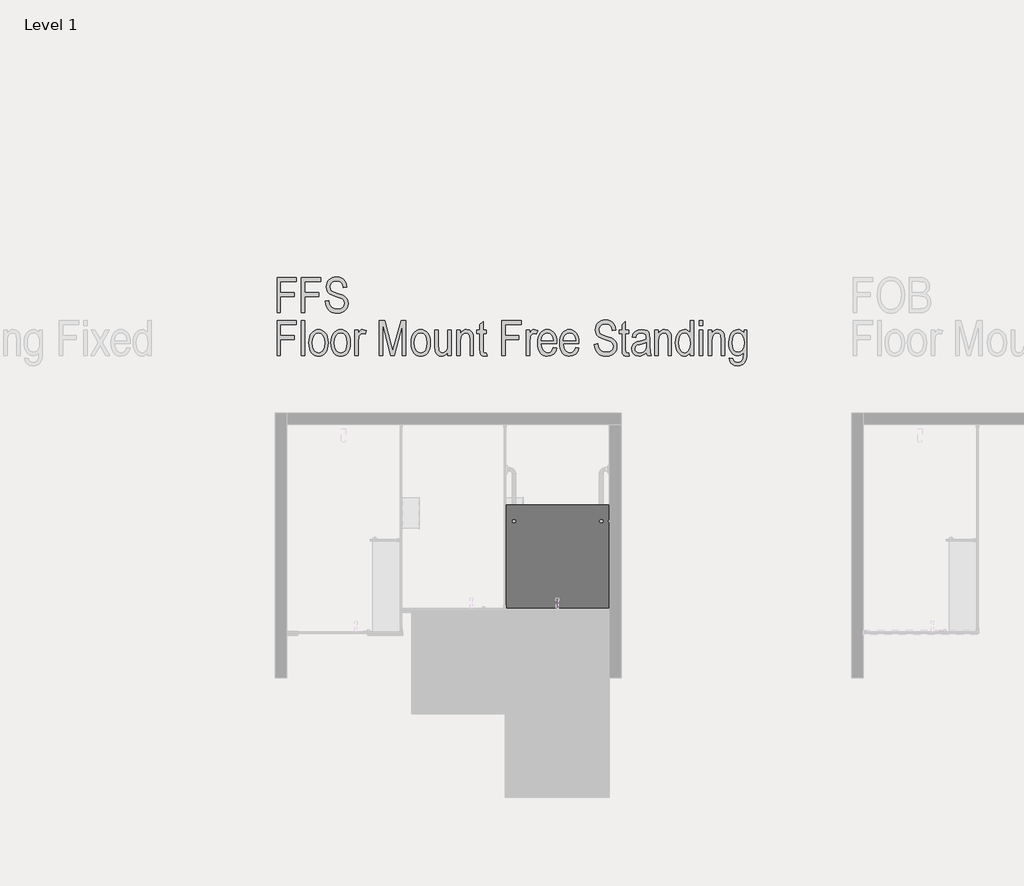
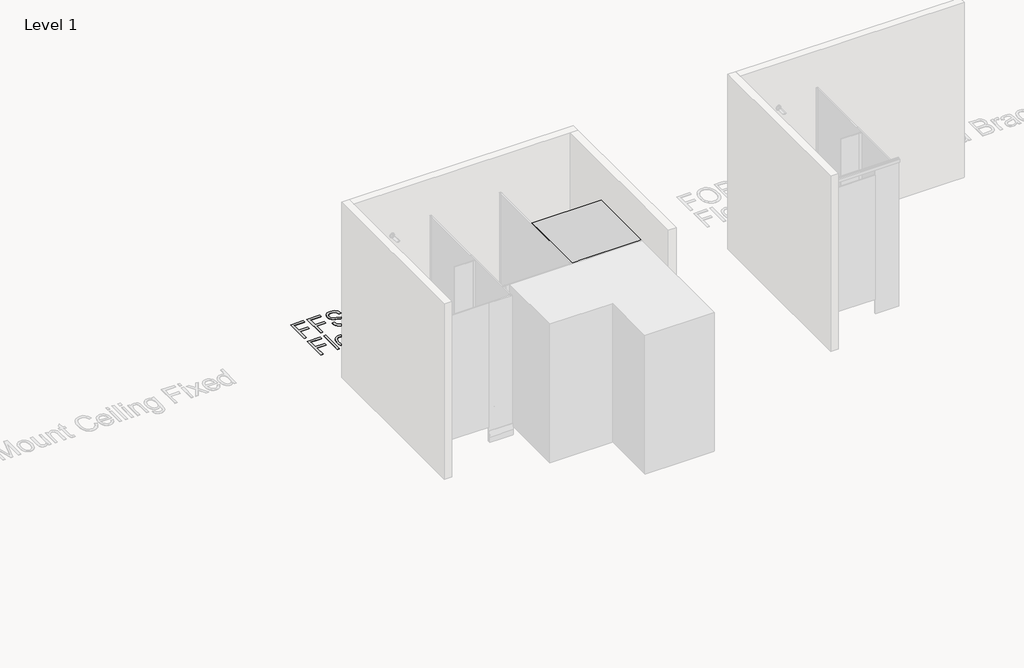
# One storey, part 11 of 21: 2 proxies.
"""IFC4 building model written with IfcOpenShell, lengths in millimetres."""

from ifc_helpers import new_model, si_unit, origin, origin_with_axes, place, context, project, spatial, polyline, outline, extrude, transform, mapped, element, save
from components import standard_ef1a4fdd

model = new_model("IFC4")

# Units and contexts
model_context = context("Model", 3, world=origin())
ifc_project = project(units=[si_unit("LENGTHUNIT", "METRE", prefix="MILLI")], contexts=[model_context])

# Site, building, storey
site = spatial("IfcSite", under=ifc_project)
building = spatial("IfcBuilding", under=site)
storey = spatial("IfcBuildingStorey", under=building, Name="Level 1", Elevation=0.0)

# Proxies
placement = place(None, origin())
element("IfcBuildingElementProxy", 1, Name="Arial Narrow-300mm", ObjectType="Arial Narrow-300mm", at=placement, inside=storey, context=model_context, shape_type="SweptSolid", body=[
    extrude(outline(polyline([(-6218.8829157, 11023.6753804), (-6218.8829157, 11328.8527498), (-6051.5275841, 11328.8527498), (-6051.5275841, 11294.3972403), (-6189.3496219, 11294.3972403), (-6189.3496219, 11195.9529276), (-6071.2164466, 11195.9529276), (-6071.2164466, 11161.4974182), (-6189.3496219, 11161.4974182), (-6189.3496219, 11023.6753804), (-6218.8829157, 11023.6753804)])), origin_with_axes(), (0.0, 0.0, 1.0), 5.0),
    extrude(outline(polyline([(-6007.2276434, 11023.6753804), (-6007.2276434, 11328.8527498), (-5839.8723118, 11328.8527498), (-5839.8723118, 11294.3972403), (-5977.6943496, 11294.3972403), (-5977.6943496, 11195.9529276), (-5859.5611743, 11195.9529276), (-5859.5611743, 11161.4974182), (-5977.6943496, 11161.4974182), (-5977.6943496, 11023.6753804), (-6007.2276434, 11023.6753804)])), origin_with_axes(), (0.0, 0.0, 1.0), 5.0),
    extrude(outline(polyline([(-5800.4945867, 11122.1196931), (-5770.9612929, 11127.0419087), (-5766.8177872, 11103.5171789), (-5759.4633048, 11085.8568076), (-5748.57098, 11072.5706709), (-5733.8139468, 11062.1686449), (-5716.0862795, 11055.4486669), (-5696.2820526, 11053.2086742), (-5669.6424832, 11056.8138126), (-5649.7132781, 11067.6292278), (-5637.2827609, 11084.2128645), (-5633.1392551, 11105.1226672), (-5634.6486064, 11117.793527), (-5639.1766602, 11128.7339204), (-5646.7522577, 11137.8957788), (-5657.40424, 11145.2310337), (-5710.0488744, 11164.0354356), (-5740.6300618, 11174.9950564), (-5760.3862202, 11185.7239483), (-5773.1339896, 11197.7699174), (-5782.6900098, 11212.6807698), (-5788.660119, 11230.0911849), (-5790.6501554, 11249.6358419), (-5784.8242518, 11283.3222552), (-5777.5418722, 11297.6274443), (-5767.3465408, 11310.2406219), (-5754.6852947, 11320.5368972), (-5740.0051711, 11327.8913795), (-5723.30617, 11332.3040689), (-5704.5882914, 11333.7749654), (-5679.1408212, 11331.0927424), (-5657.0966015, 11323.0460735), (-5639.0324547, 11309.9906656), (-5625.5252028, 11292.2822258), (-5616.892098, 11270.4879624), (-5613.4503926, 11245.175084), (-5642.9836864, 11240.2528683), (-5648.6461571, 11266.43098), (-5660.7113536, 11284.8219927), (-5679.0639115, 11295.6950902), (-5703.5884664, 11299.319456), (-5728.3245227, 11295.7719998), (-5746.3886695, 11285.1296312), (-5757.4348136, 11268.853633), (-5761.1168616, 11248.405288), (-5758.7326634, 11229.8508423), (-5751.5800688, 11216.0263383), (-5734.8522266, 11204.7398516), (-5703.5884664, 11193.9532775), (-5650.5977387, 11175.9564266), (-5630.1590074, 11162.6414488), (-5615.4500427, 11146.384678), (-5606.5669817, 11126.9553854), (-5603.6059613, 11104.1228422), (-5606.6438913, 11080.8288412), (-5615.7576812, 11059.707537), (-5630.0917115, 11042.0663931), (-5648.7903626, 11029.212873), (-5671.7959525, 11021.3680918), (-5699.0507989, 11018.7531648), (-5720.8426588, 11020.4956483), (-5740.3031959, 11025.723099), (-5757.4324102, 11034.4355168), (-5772.2303016, 11046.6329018), (-5784.220992, 11061.8057276), (-5792.9286029, 11079.4444681), (-5798.3531345, 11099.5491233), (-5800.4945867, 11122.1196931)])), origin_with_axes(), (0.0, 0.0, 1.0), 5.0),
    extrude(outline(polyline([(-6218.8829157, 10650.573168), (-6218.8829157, 10955.7505374), (-6051.5275841, 10955.7505374), (-6051.5275841, 10921.2950279), (-6189.3496219, 10921.2950279), (-6189.3496219, 10822.8507152), (-6071.2164466, 10822.8507152), (-6071.2164466, 10788.3952058), (-6189.3496219, 10788.3952058), (-6189.3496219, 10650.573168), (-6218.8829157, 10650.573168)])), origin_with_axes(), (0.0, 0.0, 1.0), 5.0),
    extrude(outline(polyline([(-6007.2276434, 10650.573168), (-6007.2276434, 10955.7505374), (-5977.6943496, 10955.7505374), (-5977.6943496, 10650.573168), (-6007.2276434, 10650.573168)])), origin_with_axes(), (0.0, 0.0, 1.0), 5.0),
    extrude(outline(polyline([(-5943.2388401, 10761.3230198), (-5941.75833, 10788.2149489), (-5937.3167994, 10811.5930697), (-5929.9142486, 10831.4573823), (-5919.5506774, 10847.8078867), (-5906.9182724, 10860.5772869), (-5892.7092203, 10869.6982871), (-5876.9235209, 10875.1708872), (-5859.5611743, 10876.9950872), (-5842.448784, 10875.1708872), (-5826.7976765, 10869.6982871), (-5812.6078518, 10860.5772869), (-5799.8793098, 10847.8078867), (-5789.3811467, 10831.6015879), (-5781.8824588, 10812.1698919), (-5777.3832461, 10789.5127987), (-5775.8835085, 10763.6303084), (-5777.3568084, 10735.7289405), (-5781.7767081, 10711.629792), (-5789.1432076, 10691.3328628), (-5799.4563069, 10674.8381529), (-5812.0526604, 10662.0687527), (-5826.2689229, 10652.9477525), (-5842.1050942, 10647.4751524), (-5859.5611743, 10645.6509524), (-5876.7672982, 10647.4799593), (-5892.4688777, 10652.9669799), (-5906.6659127, 10662.1120143), (-5919.3584033, 10674.9150625), (-5929.8060944, 10691.2896011), (-5937.2687309, 10711.1491069), (-5941.7463128, 10734.4935798), (-5943.2388401, 10761.3230198)]), holes=[polyline([(-5913.7055463, 10761.3999294), (-5909.7543146, 10723.3681227), (-5897.9006196, 10696.4882107), (-5880.2017934, 10680.5102373), (-5858.7151685, 10675.1842462), (-5838.3533468, 10680.5583058), (-5821.1063647, 10696.6804848), (-5809.3391929, 10723.6084652), (-5805.4168023, 10761.3999294), (-5809.368034, 10799.3163717), (-5821.2217291, 10826.1578289), (-5838.9205553, 10842.1358023), (-5860.4071801, 10847.4617934), (-5880.9132074, 10842.1069612), (-5898.1313484, 10826.0424644), (-5909.8119968, 10799.1721662), (-5913.7055463, 10761.3999294)])]), origin_with_axes(), (0.0, 0.0, 1.0), 5.0),
    extrude(outline(polyline([(-5751.2724304, 10761.3230198), (-5749.7919202, 10788.2149489), (-5745.3503897, 10811.5930697), (-5737.9478388, 10831.4573823), (-5727.5842676, 10847.8078867), (-5714.9518627, 10860.5772869), (-5700.7428105, 10869.6982871), (-5684.9571111, 10875.1708872), (-5667.5947646, 10876.9950872), (-5650.4823743, 10875.1708872), (-5634.8312667, 10869.6982871), (-5620.641442, 10860.5772869), (-5607.9129, 10847.8078867), (-5597.414737, 10831.6015879), (-5589.9160491, 10812.1698919), (-5585.4168363, 10789.5127987), (-5583.9170988, 10763.6303084), (-5585.3903987, 10735.7289405), (-5589.8102984, 10711.629792), (-5597.1767978, 10691.3328628), (-5607.4898971, 10674.8381529), (-5620.0862507, 10662.0687527), (-5634.3025131, 10652.9477525), (-5650.1386844, 10647.4751524), (-5667.5947646, 10645.6509524), (-5684.8008885, 10647.4799593), (-5700.5024679, 10652.9669799), (-5714.699503, 10662.1120143), (-5727.3919936, 10674.9150625), (-5737.8396847, 10691.2896011), (-5745.3023212, 10711.1491069), (-5749.7799031, 10734.4935798), (-5751.2724304, 10761.3230198)]), holes=[polyline([(-5721.7391366, 10761.3999294), (-5717.7879049, 10723.3681227), (-5705.9342098, 10696.4882107), (-5688.2353836, 10680.5102373), (-5666.7487588, 10675.1842462), (-5646.386937, 10680.5583058), (-5629.1399549, 10696.6804848), (-5617.3727832, 10723.6084652), (-5613.4503926, 10761.3999294), (-5617.4016243, 10799.3163717), (-5629.2553193, 10826.1578289), (-5646.9541455, 10842.1358023), (-5668.4407704, 10847.4617934), (-5688.9467976, 10842.1069612), (-5706.1649386, 10826.0424644), (-5717.8455871, 10799.1721662), (-5721.7391366, 10761.3999294)])]), origin_with_axes(), (0.0, 0.0, 1.0), 5.0),
    extrude(outline(polyline([(-5544.5393737, 10650.573168), (-5544.5393737, 10872.0728716), (-5515.0060799, 10872.0728716), (-5515.0060799, 10842.693397), (-5505.1231938, 10859.9596065), (-5496.0863135, 10870.2270407), (-5486.9340688, 10875.3030756), (-5476.7050895, 10876.9950872), (-5461.5538945, 10874.5339794), (-5446.095061, 10867.1506559), (-5455.9394923, 10837.6173621), (-5478.8585588, 10842.5395778), (-5488.5011023, 10840.7802702), (-5497.2784126, 10835.5023476), (-5504.3829387, 10827.0711306), (-5509.0071296, 10815.8519399), (-5515.0060799, 10769.167801), (-5515.0060799, 10650.573168), (-5544.5393737, 10650.573168)])), origin_with_axes(), (0.0, 0.0, 1.0), 5.0),
    extrude(outline(polyline([(-5332.8841014, 10650.573168), (-5332.8841014, 10955.7505374), (-5286.0461432, 10955.7505374), (-5228.6715672, 10739.6345072), (-5217.212034, 10694.4885606), (-5203.8297602, 10743.4030785), (-5143.7633475, 10955.7505374), (-5101.5399665, 10955.7505374), (-5101.5399665, 10650.573168), (-5131.0732604, 10650.573168), (-5131.0732604, 10910.8353197), (-5204.2912179, 10650.573168), (-5230.9019462, 10650.573168), (-5303.3508076, 10925.4481474), (-5303.3508076, 10650.573168), (-5332.8841014, 10650.573168)])), origin_with_axes(), (0.0, 0.0, 1.0), 5.0),
    extrude(outline(polyline([(-5057.2400258, 10761.3230198), (-5055.7595157, 10788.2149489), (-5051.3179851, 10811.5930697), (-5043.9154343, 10831.4573823), (-5033.5518631, 10847.8078867), (-5020.9194581, 10860.5772869), (-5006.7104059, 10869.6982871), (-4990.9247066, 10875.1708872), (-4973.56236, 10876.9950872), (-4956.4499697, 10875.1708872), (-4940.7988622, 10869.6982871), (-4926.6090374, 10860.5772869), (-4913.8804955, 10847.8078867), (-4903.3823324, 10831.6015879), (-4895.8836445, 10812.1698919), (-4891.3844318, 10789.5127987), (-4889.8846942, 10763.6303084), (-4891.3579941, 10735.7289405), (-4895.7778938, 10711.629792), (-4903.1443933, 10691.3328628), (-4913.4574925, 10674.8381529), (-4926.0538461, 10662.0687527), (-4940.2701086, 10652.9477525), (-4956.1062799, 10647.4751524), (-4973.56236, 10645.6509524), (-4990.7684839, 10647.4799593), (-5006.4700634, 10652.9669799), (-5020.6670984, 10662.1120143), (-5033.359589, 10674.9150625), (-5043.8072801, 10691.2896011), (-5051.2699166, 10711.1491069), (-5055.7474985, 10734.4935798), (-5057.2400258, 10761.3230198)]), holes=[polyline([(-5027.706732, 10761.3999294), (-5023.7555003, 10723.3681227), (-5011.9018052, 10696.4882107), (-4994.2029791, 10680.5102373), (-4972.7163542, 10675.1842462), (-4952.3545325, 10680.5583058), (-4935.1075504, 10696.6804848), (-4923.3403786, 10723.6084652), (-4919.417988, 10761.3999294), (-4923.3692197, 10799.3163717), (-4935.2229148, 10826.1578289), (-4952.921741, 10842.1358023), (-4974.4083658, 10847.4617934), (-4994.9143931, 10842.1069612), (-5012.1325341, 10826.0424644), (-5023.8131825, 10799.1721662), (-5027.706732, 10761.3999294)])]), origin_with_axes(), (0.0, 0.0, 1.0), 5.0),
    extrude(outline(polyline([(-4737.2960095, 10650.573168), (-4737.2960095, 10680.4910099), (-4748.2556303, 10665.272519), (-4760.9841723, 10654.3801942), (-4775.4816355, 10647.8332628), (-4791.74802, 10645.6509524), (-4810.5716493, 10648.5446768), (-4826.4342583, 10657.2258501), (-4838.4321589, 10670.3389402), (-4845.6616631, 10686.528415), (-4850.5069692, 10734.8661108), (-4850.5069692, 10872.0728716), (-4820.9736753, 10872.0728716), (-4820.9736753, 10747.4792883), (-4817.6281069, 10701.0643331), (-4812.8500968, 10690.4988741), (-4805.2072034, 10682.2599312), (-4795.497364, 10676.9531674), (-4784.5185158, 10675.1842462), (-4764.9065629, 10679.7795959), (-4749.1400909, 10693.5656452), (-4740.2570299, 10716.023254), (-4737.2960095, 10751.7093174), (-4737.2960095, 10872.0728716), (-4707.7627157, 10872.0728716), (-4707.7627157, 10650.573168), (-4737.2960095, 10650.573168)])), origin_with_axes(), (0.0, 0.0, 1.0), 5.0),
    extrude(outline(polyline([(-4658.5405594, 10650.573168), (-4658.5405594, 10872.0728716), (-4629.0072656, 10872.0728716), (-4629.0072656, 10843.4624932), (-4618.4898751, 10858.1810716), (-4605.8574702, 10868.6503935), (-4591.1677329, 10874.9089138), (-4574.4783455, 10876.9950872), (-4548.9828067, 10871.2653206), (-4530.0630404, 10856.2679448), (-4519.3341485, 10832.195234), (-4515.796306, 10786.7031942), (-4515.796306, 10650.573168), (-4545.3295998, 10650.573168), (-4545.3295998, 10787.3184711), (-4549.3673548, 10823.5429018), (-4554.5491404, 10833.6949716), (-4562.0189872, 10841.2321142), (-4571.3250511, 10845.9043736), (-4582.0154882, 10847.4617934), (-4601.3005752, 10843.2798329), (-4616.2402688, 10830.7339512), (-4625.8155164, 10808.0359998), (-4629.0072656, 10773.39783), (-4629.0072656, 10650.573168), (-4658.5405594, 10650.573168)])), origin_with_axes(), (0.0, 0.0, 1.0), 5.0),
    extrude(outline(polyline([(-4402.5853464, 10675.1842462), (-4397.6631307, 10645.6509524), (-4419.9669203, 10645.6509524), (-4434.0029259, 10647.2564407), (-4445.0394562, 10652.0729056), (-4453.0765114, 10659.6773442), (-4458.1140915, 10669.6467536), (-4461.651934, 10714.0236039), (-4461.651934, 10842.5395778), (-4486.2630122, 10842.5395778), (-4486.2630122, 10872.0728716), (-4461.651934, 10872.0728716), (-4461.651934, 10921.2950279), (-4432.1186402, 10945.9061061), (-4432.1186402, 10872.0728716), (-4402.5853464, 10872.0728716), (-4402.5853464, 10842.5395778), (-4432.1186402, 10842.5395778), (-4432.1186402, 10707.2555574), (-4429.5037131, 10683.0290273), (-4424.1584946, 10677.1454415), (-4415.5061624, 10675.1842462), (-4402.5853464, 10675.1842462)])), origin_with_axes(), (0.0, 0.0, 1.0), 5.0),
    extrude(outline(polyline([(-4269.6855242, 10650.573168), (-4269.6855242, 10955.7505374), (-4102.3301926, 10955.7505374), (-4102.3301926, 10921.2950279), (-4240.1522304, 10921.2950279), (-4240.1522304, 10822.8507152), (-4122.0190552, 10822.8507152), (-4122.0190552, 10788.3952058), (-4240.1522304, 10788.3952058), (-4240.1522304, 10650.573168), (-4269.6855242, 10650.573168)])), origin_with_axes(), (0.0, 0.0, 1.0), 5.0),
    extrude(outline(polyline([(-4058.0302519, 10650.573168), (-4058.0302519, 10872.0728716), (-4028.4969581, 10872.0728716), (-4028.4969581, 10842.693397), (-4018.614072, 10859.9596065), (-4009.5771918, 10870.2270407), (-4000.4249471, 10875.3030756), (-3990.1959677, 10876.9950872), (-3975.0447727, 10874.5339794), (-3959.5859392, 10867.1506559), (-3969.4303705, 10837.6173621), (-3992.349437, 10842.5395778), (-4001.9919806, 10840.7802702), (-4010.7692909, 10835.5023476), (-4017.8738169, 10827.0711306), (-4022.4980078, 10815.8519399), (-4028.4969581, 10769.167801), (-4028.4969581, 10650.573168), (-4058.0302519, 10650.573168)])), origin_with_axes(), (0.0, 0.0, 1.0), 5.0),
    extrude(outline(polyline([(-3821.7639014, 10719.4841869), (-3792.2306076, 10714.5619713), (-3803.4401846, 10684.6056745), (-3821.0717149, 10663.0325263), (-3844.4137843, 10649.9963459), (-3872.754979, 10645.6509524), (-3891.2469356, 10647.4799593), (-3907.8834476, 10652.9669799), (-3922.6645151, 10662.1120143), (-3935.590138, 10674.9150625), (-3946.088301, 10691.1742367), (-3953.5869889, 10710.6876492), (-3958.0862016, 10733.4552999), (-3959.5859392, 10759.4771889), (-3958.0789914, 10786.4268002), (-3953.5581478, 10809.9779677), (-3946.0234085, 10830.1306914), (-3935.4747736, 10846.8849713), (-3922.61885, 10860.058147), (-3908.162245, 10869.4675582), (-3892.1049586, 10875.113205), (-3874.4469907, 10876.9950872), (-3857.5292778, 10875.1780975), (-3842.0776546, 10869.7271282), (-3828.092121, 10860.6421794), (-3815.5726771, 10847.9232511), (-3805.2595778, 10831.7626174), (-3797.8930783, 10812.3525522), (-3793.4731787, 10789.6930556), (-3791.9998788, 10763.7841276), (-3792.2306076, 10753.9396963), (-3930.0526454, 10753.9396963), (-3924.5055391, 10719.6764609), (-3911.8635204, 10695.026928), (-3893.8955106, 10680.1449166), (-3872.3704309, 10675.1842462), (-3855.5656791, 10677.9529925), (-3841.5296736, 10686.2592314), (-3830.2624144, 10700.1029628), (-3821.7639014, 10719.4841869)]), holes=[polyline([(-3928.0529953, 10783.4729902), (-3821.7639014, 10783.4729902), (-3826.0708401, 10808.7378001), (-3834.6847175, 10826.6961962), (-3852.3354751, 10842.2703941), (-3874.2162618, 10847.4617934), (-3894.3088998, 10843.1356273), (-3911.2097887, 10830.1571291), (-3923.0730975, 10809.8337622), (-3928.0529953, 10783.4729902)])]), origin_with_axes(), (0.0, 0.0, 1.0), 5.0),
    extrude(outline(polyline([(-3629.7974917, 10719.4841869), (-3600.2641979, 10714.5619713), (-3611.4737749, 10684.6056745), (-3629.1053051, 10663.0325263), (-3652.4473746, 10649.9963459), (-3680.7885693, 10645.6509524), (-3699.2805259, 10647.4799593), (-3715.9170379, 10652.9669799), (-3730.6981053, 10662.1120143), (-3743.6237282, 10674.9150625), (-3754.1218913, 10691.1742367), (-3761.6205791, 10710.6876492), (-3766.1197919, 10733.4552999), (-3767.6195294, 10759.4771889), (-3766.1125816, 10786.4268002), (-3761.591738, 10809.9779677), (-3754.0569988, 10830.1306914), (-3743.5083638, 10846.8849713), (-3730.6524402, 10860.058147), (-3716.1958352, 10869.4675582), (-3700.1385488, 10875.113205), (-3682.4805809, 10876.9950872), (-3665.5628681, 10875.1780975), (-3650.1112449, 10869.7271282), (-3636.1257113, 10860.6421794), (-3623.6062673, 10847.9232511), (-3613.2931681, 10831.7626174), (-3605.9266686, 10812.3525522), (-3601.5067689, 10789.6930556), (-3600.033469, 10763.7841276), (-3600.2641979, 10753.9396963), (-3738.0862356, 10753.9396963), (-3732.5391293, 10719.6764609), (-3719.8971107, 10695.026928), (-3701.9291009, 10680.1449166), (-3680.4040212, 10675.1842462), (-3663.5992694, 10677.9529925), (-3649.5632638, 10686.2592314), (-3638.2960046, 10700.1029628), (-3629.7974917, 10719.4841869)]), holes=[polyline([(-3736.0865855, 10783.4729902), (-3629.7974917, 10783.4729902), (-3634.1044303, 10808.7378001), (-3642.7183077, 10826.6961962), (-3660.3690653, 10842.2703941), (-3682.249852, 10847.4617934), (-3702.3424901, 10843.1356273), (-3719.2433789, 10830.1571291), (-3731.1066877, 10809.8337622), (-3736.0865855, 10783.4729902)])]), origin_with_axes(), (0.0, 0.0, 1.0), 5.0),
    extrude(outline(polyline([(-3467.3643757, 10749.0174807), (-3437.8310819, 10753.9396963), (-3433.6875762, 10730.4149665), (-3426.3330938, 10712.7545952), (-3415.440769, 10699.4684585), (-3400.6837358, 10689.0664325), (-3382.9560685, 10682.3464545), (-3363.1518416, 10680.1064618), (-3336.5122722, 10683.7116002), (-3316.5830671, 10694.5270154), (-3304.1525499, 10711.1106521), (-3300.0090441, 10732.0204548), (-3301.5183954, 10744.6913146), (-3306.0464492, 10755.631708), (-3313.6220467, 10764.7935664), (-3324.274029, 10772.1288213), (-3376.9186634, 10790.9332232), (-3407.4998508, 10801.892844), (-3427.2560092, 10812.6217359), (-3440.0037786, 10824.667705), (-3449.5597988, 10839.5785574), (-3455.529908, 10856.9889725), (-3457.5199444, 10876.5336295), (-3451.6940408, 10910.2200428), (-3444.4116612, 10924.5252319), (-3434.2163298, 10937.1384095), (-3421.5550837, 10947.4346848), (-3406.8749601, 10954.7891671), (-3390.175959, 10959.2018565), (-3371.4580804, 10960.672753), (-3346.0106102, 10957.99053), (-3323.9663905, 10949.9438611), (-3305.9022437, 10936.8884532), (-3292.3949918, 10919.1800134), (-3283.761887, 10897.38575), (-3280.3201816, 10872.0728716), (-3309.8534754, 10867.1506559), (-3315.5159461, 10893.3287676), (-3327.5811426, 10911.7197803), (-3345.9337005, 10922.5928778), (-3370.4582554, 10926.2172436), (-3395.1943117, 10922.6697874), (-3413.2584585, 10912.0274188), (-3424.3046026, 10895.7514206), (-3427.9866506, 10875.3030756), (-3425.6024524, 10856.7486299), (-3418.4498578, 10842.9241259), (-3401.7220156, 10831.6376392), (-3370.4582554, 10820.8510651), (-3317.4675277, 10802.8542142), (-3297.0287964, 10789.5392364), (-3282.3198317, 10773.2824656), (-3273.4367707, 10753.853173), (-3270.4757503, 10731.0206298), (-3273.5136803, 10707.7266288), (-3282.6274702, 10686.6053246), (-3296.9615005, 10668.9641807), (-3315.6601516, 10656.1106606), (-3338.6657415, 10648.2658794), (-3365.9205879, 10645.6509524), (-3387.7124478, 10647.3934359), (-3407.1729849, 10652.6208866), (-3424.3021992, 10661.3333044), (-3439.1000906, 10673.5306894), (-3451.090781, 10688.7035152), (-3459.7983919, 10706.3422557), (-3465.2229235, 10726.4469109), (-3467.3643757, 10749.0174807)])), origin_with_axes(), (0.0, 0.0, 1.0), 5.0),
    extrude(outline(polyline([(-3167.109222, 10675.1842462), (-3162.1870063, 10645.6509524), (-3184.4907959, 10645.6509524), (-3198.5268015, 10647.2564407), (-3209.5633318, 10652.0729056), (-3217.600387, 10659.6773442), (-3222.6379671, 10669.6467536), (-3226.1758096, 10714.0236039), (-3226.1758096, 10842.5395778), (-3250.7868878, 10842.5395778), (-3250.7868878, 10872.0728716), (-3226.1758096, 10872.0728716), (-3226.1758096, 10921.2950279), (-3196.6425158, 10945.9061061), (-3196.6425158, 10872.0728716), (-3167.109222, 10872.0728716), (-3167.109222, 10842.5395778), (-3196.6425158, 10842.5395778), (-3196.6425158, 10707.2555574), (-3194.0275887, 10683.0290273), (-3188.6823702, 10677.1454415), (-3180.030038, 10675.1842462), (-3167.109222, 10675.1842462)])), origin_with_axes(), (0.0, 0.0, 1.0), 5.0),
    extrude(outline(polyline([(-3014.5205373, 10678.1068117), (-3030.1428037, 10663.9554418), (-3046.3995745, 10653.803372), (-3063.2908496, 10647.6890573), (-3080.8166291, 10645.6509524), (-3106.1198939, 10649.9386636), (-3125.7318468, 10662.8017975), (-3138.3065696, 10682.9136629), (-3142.4981438, 10708.9475691), (-3140.48888, 10727.0790118), (-3134.4610886, 10743.0185304), (-3124.9531369, 10756.2373712), (-3112.5033923, 10766.2067806), (-3094.9872265, 10773.4651259), (-3070.2800113, 10778.5507745), (-3037.3434668, 10785.3572758), (-3014.5205373, 10793.3174214), (-3014.5205373, 10802.7773046), (-3016.6163244, 10821.889345), (-3022.9036858, 10834.3102485), (-3037.8241519, 10844.1739072), (-3059.0512069, 10847.4617934), (-3078.2786117, 10845.3948474), (-3091.9685239, 10839.1940093), (-3101.4476345, 10827.282632), (-3108.0426344, 10808.0840683), (-3137.5759282, 10813.006284), (-3127.7891791, 10841.9146871), (-3111.349748, 10861.7285278), (-3087.3347194, 10873.1784474), (-3054.8211778, 10876.9950872), (-3029.229502, 10874.3128642), (-3009.8290505, 10866.2661953), (-2996.5333001, 10854.258681), (-2989.2557274, 10839.6939219), (-2984.9872435, 10793.394331), (-2984.9872435, 10743.3261689), (-2982.9875934, 10677.1454415), (-2975.1428122, 10650.573168), (-3004.676106, 10650.573168), (-3010.9057852, 10663.2248004), (-3014.5205373, 10678.1068117)]), holes=[polyline([(-3014.5205373, 10763.7841276), (-3036.6128254, 10755.7470724), (-3067.3574457, 10749.0174807), (-3095.8524597, 10741.288064), (-3108.4656373, 10728.9825249), (-3112.96485, 10710.6395807), (-3110.3883777, 10696.1132763), (-3102.658961, 10684.8364034), (-3090.3726493, 10677.5972855), (-3074.1254922, 10675.1842462), (-3057.6091515, 10677.3665566), (-3042.669458, 10683.913488), (-3030.3062367, 10694.1040125), (-3021.5193126, 10707.2171026), (-3016.2702311, 10725.1274302), (-3014.5205373, 10749.7096673), (-3014.5205373, 10763.7841276)])]), origin_with_axes(), (0.0, 0.0, 1.0), 5.0),
    extrude(outline(polyline([(-2940.6873028, 10650.573168), (-2940.6873028, 10872.0728716), (-2911.154009, 10872.0728716), (-2911.154009, 10843.4624932), (-2900.6366185, 10858.1810716), (-2888.0042135, 10868.6503935), (-2873.3144763, 10874.9089138), (-2856.6250889, 10876.9950872), (-2831.1295501, 10871.2653206), (-2812.2097837, 10856.2679448), (-2801.4808918, 10832.195234), (-2797.9430494, 10786.7031942), (-2797.9430494, 10650.573168), (-2827.4763432, 10650.573168), (-2827.4763432, 10787.3184711), (-2831.5140982, 10823.5429018), (-2836.6958838, 10833.6949716), (-2844.1657305, 10841.2321142), (-2853.4717945, 10845.9043736), (-2864.1622316, 10847.4617934), (-2883.4473186, 10843.2798329), (-2898.3870122, 10830.7339512), (-2907.9622598, 10808.0359998), (-2911.154009, 10773.39783), (-2911.154009, 10650.573168), (-2940.6873028, 10650.573168)])), origin_with_axes(), (0.0, 0.0, 1.0), 5.0),
    extrude(outline(polyline([(-2635.5099334, 10650.573168), (-2635.5099334, 10677.3377155), (-2644.9986577, 10663.7150992), (-2656.8523527, 10653.7649172), (-2670.4172869, 10647.6794436), (-2685.0397282, 10645.6509524), (-2700.4264589, 10647.5472552), (-2714.7460687, 10653.2361636), (-2727.9985575, 10662.7176776), (-2740.1839253, 10675.9917972), (-2750.3792567, 10692.7028154), (-2757.6616362, 10712.4950252), (-2762.031064, 10735.3684267), (-2763.4875399, 10761.3230198), (-2760.8533854, 10796.1534636), (-2752.9509221, 10825.2733682), (-2740.6549967, 10848.15398), (-2724.8404562, 10864.2665452), (-2706.2956243, 10873.8129517), (-2685.8088244, 10876.9950872), (-2670.9844953, 10875.0723467), (-2657.2753557, 10869.3041253), (-2645.2582276, 10860.0941984), (-2635.5099334, 10847.8463415), (-2635.5099334, 10955.7505374), (-2605.9766396, 10955.7505374), (-2605.9766396, 10650.573168), (-2635.5099334, 10650.573168)]), holes=[polyline([(-2733.9542461, 10761.0922909), (-2730.2145159, 10723.098939), (-2718.9953251, 10696.3343915), (-2702.7962366, 10680.4717825), (-2684.1168128, 10675.1842462), (-2665.7354138, 10680.2602811), (-2649.9689418, 10695.4883857), (-2639.1246855, 10720.9839245), (-2635.5099334, 10756.8622619), (-2639.1246855, 10797.7012697), (-2649.9689418, 10825.7732808), (-2666.3122359, 10842.0396652), (-2686.4241014, 10847.4617934), (-2704.526703, 10842.2511667), (-2719.9182406, 10826.6192866), (-2730.4452447, 10799.8162843), (-2733.9542461, 10761.0922909)])]), origin_with_axes(), (0.0, 0.0, 1.0), 5.0),
    extrude(outline(polyline([(-2556.7544832, 10650.573168), (-2556.7544832, 10872.0728716), (-2527.2211894, 10872.0728716), (-2527.2211894, 10650.573168), (-2556.7544832, 10650.573168)])), origin_with_axes(), (0.0, 0.0, 1.0), 5.0),
    extrude(outline(polyline([(-2556.7544832, 10911.4505967), (-2556.7544832, 10955.7505374), (-2527.2211894, 10955.7505374), (-2527.2211894, 10911.4505967), (-2556.7544832, 10911.4505967)])), origin_with_axes(), (0.0, 0.0, 1.0), 5.0),
    extrude(outline(polyline([(-2477.9990331, 10650.573168), (-2477.9990331, 10872.0728716), (-2448.4657393, 10872.0728716), (-2448.4657393, 10843.4624932), (-2437.9483488, 10858.1810716), (-2425.3159439, 10868.6503935), (-2410.6262066, 10874.9089138), (-2393.9368192, 10876.9950872), (-2368.4412804, 10871.2653206), (-2349.521514, 10856.2679448), (-2338.7926221, 10832.195234), (-2335.2547797, 10786.7031942), (-2335.2547797, 10650.573168), (-2364.7880735, 10650.573168), (-2364.7880735, 10787.3184711), (-2368.8258285, 10823.5429018), (-2374.0076141, 10833.6949716), (-2381.4774609, 10841.2321142), (-2390.7835248, 10845.9043736), (-2401.4739619, 10847.4617934), (-2420.7590489, 10843.2798329), (-2435.6987425, 10830.7339512), (-2445.2739901, 10808.0359998), (-2448.4657393, 10773.39783), (-2448.4657393, 10650.573168), (-2477.9990331, 10650.573168)])), origin_with_axes(), (0.0, 0.0, 1.0), 5.0),
    extrude(outline(polyline([(-2295.8770546, 10630.8843055), (-2266.3437608, 10625.9620898), (-2262.1521865, 10610.7435989), (-2253.7305832, 10600.0050933), (-2241.1558604, 10593.6312086), (-2224.5049279, 10591.5065804), (-2206.2004385, 10593.9003923), (-2192.0490685, 10601.081828), (-2181.8969988, 10612.9932053), (-2175.59041, 10629.5768419), (-2172.8216637, 10678.1068117), (-2183.3678952, 10666.1089111), (-2195.1639081, 10657.4950337), (-2208.2673845, 10652.3036344), (-2222.7360066, 10650.573168), (-2238.199647, 10652.2940207), (-2252.2885278, 10657.4565789), (-2265.0026493, 10666.0608426), (-2276.3420113, 10678.1068117), (-2287.0420621, 10695.2913048), (-2294.6849555, 10715.1580208), (-2299.2706915, 10737.7069598), (-2300.7992702, 10762.9381218), (-2298.059365, 10796.3745788), (-2289.8396495, 10825.311823), (-2277.1687897, 10848.4520048), (-2261.0754518, 10864.4972741), (-2242.203754, 10873.8706339), (-2221.1978142, 10876.9950872), (-2205.6812985, 10875.1108015), (-2191.5876108, 10869.4579445), (-2178.9744332, 10860.0365162), (-2167.8994481, 10846.8465165), (-2167.8994481, 10872.0728716), (-2143.2883699, 10872.0728716), (-2143.2883699, 10681.4139253), (-2145.3553159, 10637.8061712), (-2151.556154, 10608.8112447), (-2162.4580925, 10589.4011796), (-2178.62834, 10574.5480093), (-2199.3458687, 10565.1169673), (-2223.8896509, 10561.9732866), (-2254.836159, 10566.5397952), (-2277.6879296, 10580.2393212), (-2291.6374118, 10602.0335845), (-2295.8770546, 10630.8843055)]), holes=[polyline([(-2271.2659764, 10765.2454104), (-2267.5358599, 10726.8675103), (-2256.3455103, 10700.4875109), (-2239.7522599, 10685.2017241), (-2219.8134411, 10680.1064618), (-2199.8169401, 10685.0959734), (-2183.0506431, 10700.064508), (-2171.6872468, 10725.9157538), (-2167.8994481, 10763.5533988), (-2171.7929975, 10800.6238353), (-2183.473646, 10826.7731058), (-2200.7110144, 10842.2896215), (-2221.2747239, 10847.4617934), (-2239.9733751, 10842.2896215), (-2256.2301458, 10826.7731058), (-2267.5070188, 10801.0468382), (-2271.2659764, 10765.2454104)])]), origin_with_axes(), (0.0, 0.0, 1.0), 5.0),
])
standard_shape = standard_ef1a4fdd(model_context)
element("IfcBuildingElementProxy", 2, Name="Clearance-Door-Circulation-AS1428.1-2021-Duracube : Standard", ObjectType="Clearance-Door-Circulation-AS1428.1-2021-Duracube : Standard", at=placement, inside=storey, context=model_context, shape_type="MappedRepresentation", body=[
    mapped(standard_shape, transform((-3787.916652, 8904.4657683, 0.0), x_axis=(1.0, 0.0, 0.0), y_axis=(0.0, 1.0, 0.0), z_axis=(0.0, 0.0, 1.0))),
])

save(model, "model.ifc")
